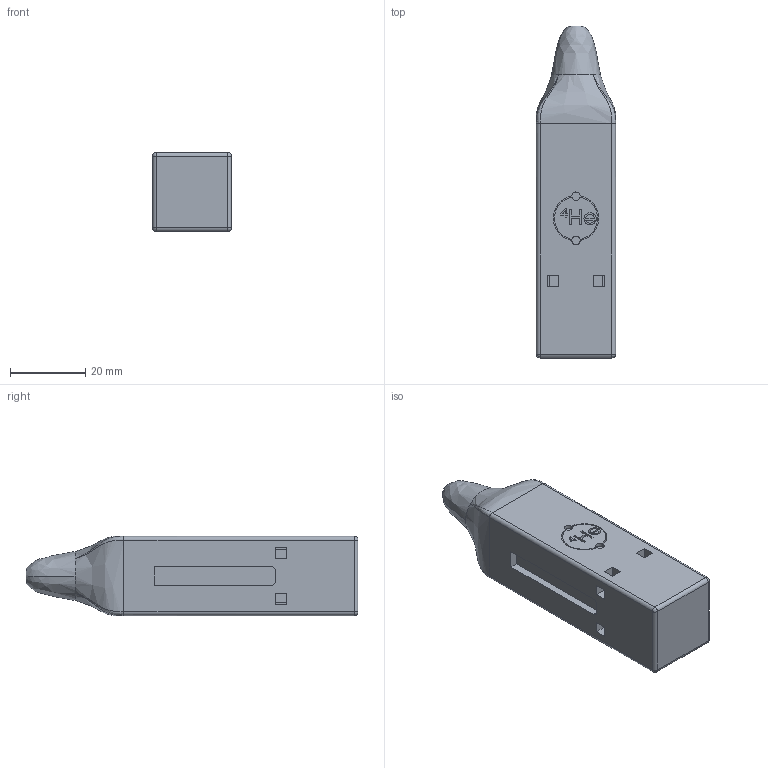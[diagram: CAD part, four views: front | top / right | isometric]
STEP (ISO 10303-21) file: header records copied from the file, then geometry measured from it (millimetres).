
FILE_DESCRIPTION (( 'STEP AP203' ), '1' );
FILE_NAME ('M4H_dummy_sensor.STEP', '2026-07-31T15:14:25', ( '' ), ( '' ), 'SwSTEP 2.0', 'SolidWorks 2026', '' );
FILE_SCHEMA (( 'CONFIG_CONTROL_DESIGN' ));
Length unit declared in the file: millimetre
Products named in the file (1): M4H_dummy_sensor
Bounding box: 21 x 87.98 x 21 mm (x, y, z)
Volume: 31450.7 mm3; surface area: 7607.1 mm2
Topology: 1 solids, 1 shells, 125 faces, 326 edges, 204 vertices
Faces by surface type: plane 84, cylinder 27, bspline 10, sphere 4
Entity records: 4395 total; most frequent: CARTESIAN_POINT 1296, ORIENTED_EDGE 636, DIRECTION 594, EDGE_CURVE 318, LINE 246, VECTOR 246, VERTEX_POINT 204, AXIS2_PLACEMENT_3D 174
